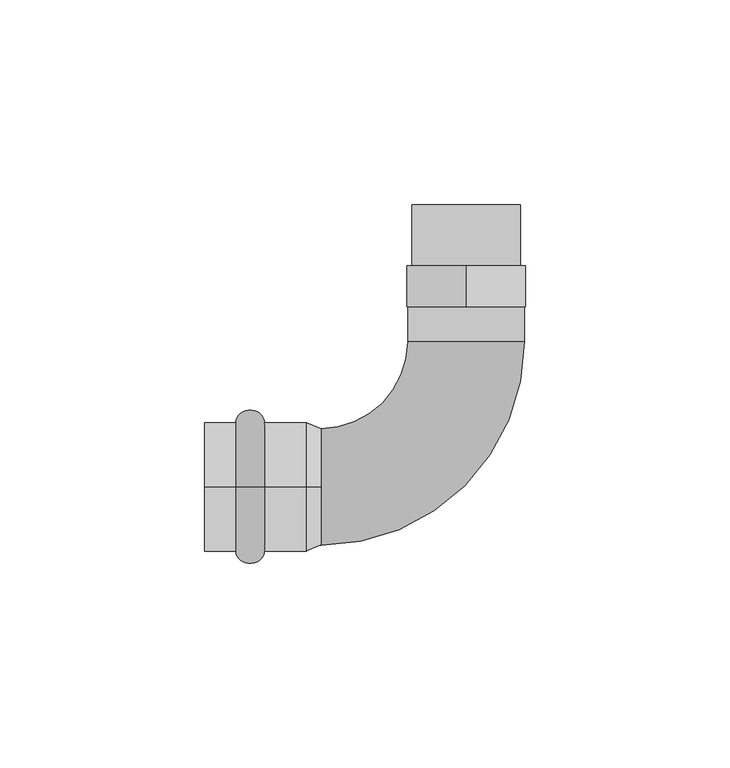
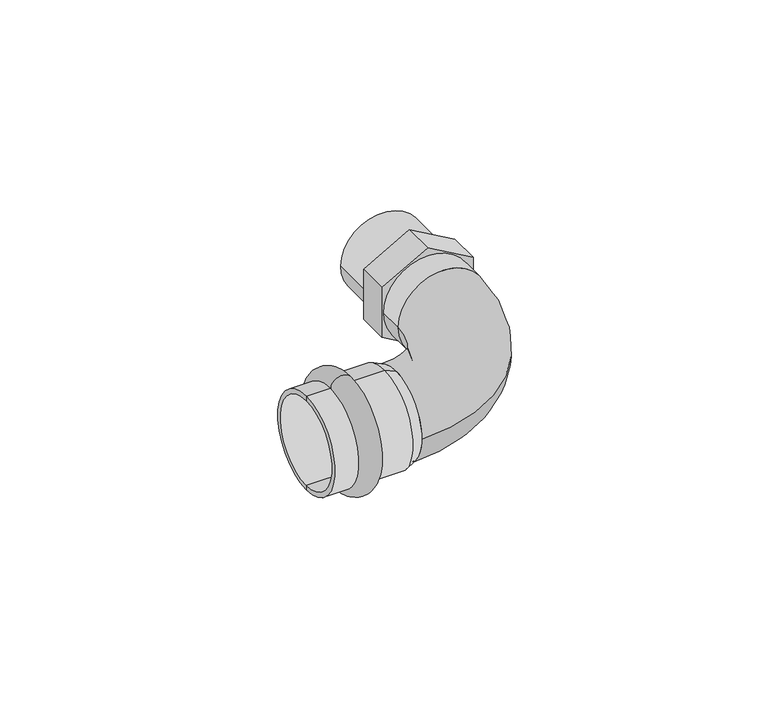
"""IFC4 building model written with IfcOpenShell, lengths in millimetres: pipe fitting geometry."""

from ifc_helpers import new_model, si_unit, point, frame, frame_2d, origin, place, context, project, spatial, polyline, circle_curve, ellipse_curve, trimmed, segment, composite_curve, outline, extrude, source, transform, mapped, element, save
from ifc_brep_helpers import plane_surface, cylinder_surface, revolved_surface, advanced_brep


def pipe_fitting_81e75a1a(model_context):
    return source(origin(), model_context, "Body", "SolidModel", [
        advanced_brep(
        [(-17.3, 0.0, 15.75), (-17.3, 0.0, -15.75), (-10.3, 0.0, -15.75), (-10.3, 0.0, 15.75)],
        [
            (0, 1, circle_curve(frame((-17.3, 0.0, 0.0), z_axis=(-1.0, 0.0, 0.0), x_axis=(0.0, 0.0, -1.0)), 15.75)),
            (1, 2),
            (2, 3, circle_curve(frame((-10.3, 0.0, 0.0), z_axis=(1.0, 0.0, 0.0), x_axis=(0.0, 0.0, -1.0)), 15.75)),
            (3, 0),
            (1, 0, circle_curve(frame((-17.3, 0.0, 0.0), z_axis=(-1.0, 0.0, 0.0), x_axis=(0.0, 0.0, -1.0)), 15.75)),
            (3, 2, circle_curve(frame((-10.3, 0.0, 0.0), z_axis=(1.0, 0.0, 0.0), x_axis=(0.0, 0.0, -1.0)), 15.75)),
            (2, 1, ellipse_curve(frame((-13.8, 0.0, -15.75), z_axis=(0.0, 1.0, 0.0), x_axis=(-1.0, 0.0, 0.0)), 3.5, 3.1)),
            (0, 3, ellipse_curve(frame((-13.8, 0.0, 15.75), z_axis=(0.0, 1.0, 0.0), x_axis=(-1.0, 0.0, 0.0)), 3.5, 3.1)),
        ],
        [
            revolved_surface(polyline([(-10.3, 0.0, -15.75), (-17.3, 0.0, -15.75)]), (2.7, 0.0, 0.0), (1.0, 0.0, 0.0)),
            revolved_surface(trimmed(ellipse_curve(frame((-13.8, 0.0, -15.75), z_axis=(0.0, -1.0, 0.0), x_axis=(-1.0, 0.0, 0.0)), 3.5, 3.1), [point((-17.3, 0.0, -15.75))], [point((-10.3, 0.0, -15.75))], True, "CARTESIAN"), (2.7, 0.0, 0.0), (1.0, 0.0, 0.0)),
        ],
        [
            (0, [[1, 2, 3, 4]]),
            (0, [[5, -4, 6, -2]]),
            (1, [[-3, 7, -1, 8]]),
            (1, [[-6, -8, -5, -7]]),
        ],
    ),
        advanced_brep(
        [(3.5337785, 0.0, 14.25), (3.5337785, 0.0, -14.25), (0.0, 0.0, -15.75), (0.0, 0.0, 15.75), (-25.0, 0.0, 14.25), (-25.0, 0.0, -14.25), (-25.0, 0.0, 15.75), (-25.0, 0.0, -15.75)],
        [
            (0, 1, circle_curve(frame((3.5337785, 0.0, 0.0), z_axis=(-1.0, 0.0, 0.0), x_axis=(0.0, 0.0, -1.0)), 14.25)),
            (1, 2),
            (2, 3, circle_curve(frame((0.0, 0.0, 0.0), z_axis=(1.0, 0.0, 0.0), x_axis=(0.0, 0.0, -1.0)), 15.75)),
            (3, 0),
            (1, 0, circle_curve(frame((3.5337785, 0.0, 0.0), z_axis=(-1.0, 0.0, 0.0), x_axis=(0.0, 0.0, -1.0)), 14.25)),
            (3, 2, circle_curve(frame((0.0, 0.0, 0.0), z_axis=(1.0, 0.0, 0.0), x_axis=(0.0, 0.0, -1.0)), 15.75)),
            (4, 5, circle_curve(frame((-25.0, 0.0, 0.0), z_axis=(-1.0, 0.0, 0.0), x_axis=(0.0, 0.0, -1.0)), 14.25)),
            (5, 1),
            (0, 4),
            (5, 4, circle_curve(frame((-25.0, 0.0, 0.0), z_axis=(-1.0, 0.0, 0.0), x_axis=(0.0, 0.0, -1.0)), 14.25)),
            (6, 7, circle_curve(frame((-25.0, 0.0, 0.0), z_axis=(-1.0, 0.0, 0.0), x_axis=(0.0, 0.0, -1.0)), 15.75)),
            (7, 5),
            (4, 6),
            (7, 6, circle_curve(frame((-25.0, 0.0, 0.0), z_axis=(-1.0, 0.0, 0.0), x_axis=(0.0, 0.0, -1.0)), 15.75)),
            (2, 7),
            (6, 3),
        ],
        [
            revolved_surface(polyline([(0.0, 0.0, -15.75), (3.5337785, 0.0, -14.25)]), (2.7, 0.0, 0.0), (1.0, 0.0, 0.0)),
            revolved_surface(polyline([(3.5337785, 0.0, -14.25), (-25.0, 0.0, -14.25)]), (2.7, 0.0, 0.0), (1.0, 0.0, 0.0)),
            plane_surface(frame((-25.0, 0.0, 0.0), z_axis=(-1.0, 0.0, 0.0), x_axis=(0.0, 0.0, -1.0))),
            cylinder_surface(frame((2.7, 0.0, 0.0), z_axis=(1.0, 0.0, 0.0), x_axis=(0.0, 0.0, -1.0)), 15.75),
        ],
        [
            (0, [[1, 2, 3, 4]]),
            (0, [[5, -4, 6, -2]]),
            (1, [[7, 8, -1, 9]]),
            (1, [[10, -9, -5, -8]]),
            (2, [[11, 12, -7, 13]]),
            (2, [[14, -13, -10, -12]]),
            (3, [[-3, 15, -11, 16]]),
            (3, [[-6, -16, -14, -15]]),
        ],
    ),
        extrude(outline(polyline([(8.3715789, 53.5), (16.7431578, 39.0), (8.3715789, 24.5), (-8.3715789, 24.5), (-16.7431578, 39.0), (-8.3715789, 53.5), (8.3715789, 53.5)]), holes=[polyline([(-5.34049, 29.75), (5.34049, 29.75), (10.68098, 39.0), (5.34049, 48.25), (-5.34049, 48.25), (-10.68098, 39.0), (-5.34049, 29.75)])]), frame((0.0, 44.0, 0.0), z_axis=(0.0, 1.0, 0.0), x_axis=(0.0, 0.0, 1.0)), (0.0, 0.0, 1.0), 10.0),
        extrude(outline(composite_curve([segment(trimmed(circle_curve(frame_2d((0.0, 39.0)), 13.25), [point((0.0, 25.75))], [point((0.0, 52.25))], False, "CARTESIAN"), True, "CONTINUOUS"), segment(trimmed(circle_curve(frame_2d((0.0, 39.0)), 13.25), [point((0.0, 52.25))], [point((0.0, 25.75))], False, "CARTESIAN"), True, "CONTINUOUS")], self_intersect=False)), frame((0.0, 54.0, 0.0), z_axis=(0.0, 1.0, 0.0), x_axis=(0.0, 0.0, 1.0)), (0.0, 0.0, 1.0), 15.0),
        advanced_brep(
        [(0.0, -14.25, 0.0), (0.0, 14.25, 0.0), (3.5337785, -14.25, 0.0), (3.5337785, 14.25, 0.0), (24.75, 35.4662215, 0.0), (53.25, 35.4662215, 0.0), (53.25, 44.0, 0.0), (24.75, 44.0, 0.0)],
        [
            (0, 1, circle_curve(frame((0.0, 0.0, 0.0), z_axis=(-1.0, 0.0, 0.0), x_axis=(0.0, 1.0, 0.0)), 14.25)),
            (1, 0, circle_curve(frame((0.0, 0.0, 0.0), z_axis=(-1.0, 0.0, 0.0), x_axis=(0.0, 1.0, 0.0)), 14.25)),
            (0, 2),
            (2, 3, circle_curve(frame((3.5337785, 0.0, 0.0), z_axis=(-1.0, 0.0, 0.0), x_axis=(0.0, 1.0, 0.0)), 14.25)),
            (3, 1),
            (3, 2, circle_curve(frame((3.5337785, 0.0, 0.0), z_axis=(-1.0, 0.0, 0.0), x_axis=(0.0, 1.0, 0.0)), 14.25)),
            (4, 3, circle_curve(frame((3.5337785, 35.4662215, 0.0), z_axis=(0.0, 0.0, -1.0), x_axis=(0.0, -1.0, 0.0)), 21.2162215)),
            (2, 5, circle_curve(frame((3.5337785, 35.4662215, 0.0), z_axis=(0.0, 0.0, 1.0), x_axis=(0.0, -1.0, 0.0)), 49.7162215)),
            (5, 4, circle_curve(frame((39.0, 35.4662215, 0.0), z_axis=(0.0, -1.0, 0.0), x_axis=(-1.0, 0.0, 0.0)), 14.25)),
            (4, 5, circle_curve(frame((39.0, 35.4662215, 0.0), z_axis=(0.0, -1.0, 0.0), x_axis=(-1.0, 0.0, 0.0)), 14.25)),
            (6, 7, circle_curve(frame((39.0, 44.0, 0.0), z_axis=(0.0, 1.0, 0.0), x_axis=(-1.0, 0.0, 0.0)), 14.25)),
            (7, 6, circle_curve(frame((39.0, 44.0, 0.0), z_axis=(0.0, 1.0, 0.0), x_axis=(-1.0, 0.0, 0.0)), 14.25)),
            (5, 6),
            (7, 4),
        ],
        [
            plane_surface(frame((0.0, 0.0, 0.0), z_axis=(-1.0, 0.0, 0.0), x_axis=(0.0, 0.0, 1.0))),
            cylinder_surface(frame((0.0, 0.0, 0.0), z_axis=(-1.0, 0.0, 0.0), x_axis=(0.0, 1.0, 0.0)), 14.25),
            revolved_surface(trimmed(ellipse_curve(frame((3.5337785, 0.0, 0.0), z_axis=(-1.0, 0.0, 0.0), x_axis=(0.0, 1.0, 0.0)), 14.25, 14.25), [point((3.5337785, -14.25, 0.0))], [point((3.5337785, 14.25, 0.0))], True, "CARTESIAN"), (3.5337785, 35.4662215, 0.0), (0.0, 0.0, 1.0)),
            revolved_surface(trimmed(ellipse_curve(frame((3.5337785, 0.0, 0.0), z_axis=(-1.0, 0.0, 0.0), x_axis=(0.0, 1.0, 0.0)), 14.25, 14.25), [point((3.5337785, 14.25, 0.0))], [point((3.5337785, -14.25, 0.0))], True, "CARTESIAN"), (3.5337785, 35.4662215, 0.0), (0.0, 0.0, 1.0)),
            plane_surface(frame((39.0, 44.0, 0.0), z_axis=(0.0, 1.0, 0.0), x_axis=(0.0, 0.0, 1.0))),
            cylinder_surface(frame((39.0, 35.4662215, 0.0), z_axis=(0.0, -1.0, 0.0), x_axis=(-1.0, 0.0, 0.0)), 14.25),
        ],
        [
            (0, [[1, 2]]),
            (1, [[-1, 3, 4, 5]]),
            (1, [[-2, -5, 6, -3]]),
            (2, [[7, -4, 8, 9]]),
            (3, [[-8, -6, -7, 10]]),
            (4, [[11, 12]]),
            (5, [[-9, 13, -12, 14]]),
            (5, [[-10, -14, -11, -13]]),
        ],
    ),
    ])


if __name__ == "__main__":
    model = new_model("IFC4")
    model_context = context("Model", 3, world=origin())
    ifc_project = project(units=[si_unit("LENGTHUNIT", "METRE", prefix="MILLI")], contexts=[model_context])
    site = spatial("IfcSite", under=ifc_project)
    building = spatial("IfcBuilding", under=site)
    placement = place(None, origin())
    pipe_fitting_shape = pipe_fitting_81e75a1a(model_context)
    element("IfcPipeFitting", 1, ObjectType="РЕХАУ_Пресс Отвод НР : 28 x R 3/4\"", at=placement, inside=building, context=model_context, shape_type="MappedRepresentation", body=[
        mapped(pipe_fitting_shape, transform((0.0, 0.0, 0.0), x_axis=(1.0, 0.0, 0.0), y_axis=(0.0, 1.0, 0.0), z_axis=(0.0, 0.0, 1.0))),
    ])
    save(model, "model.ifc")
